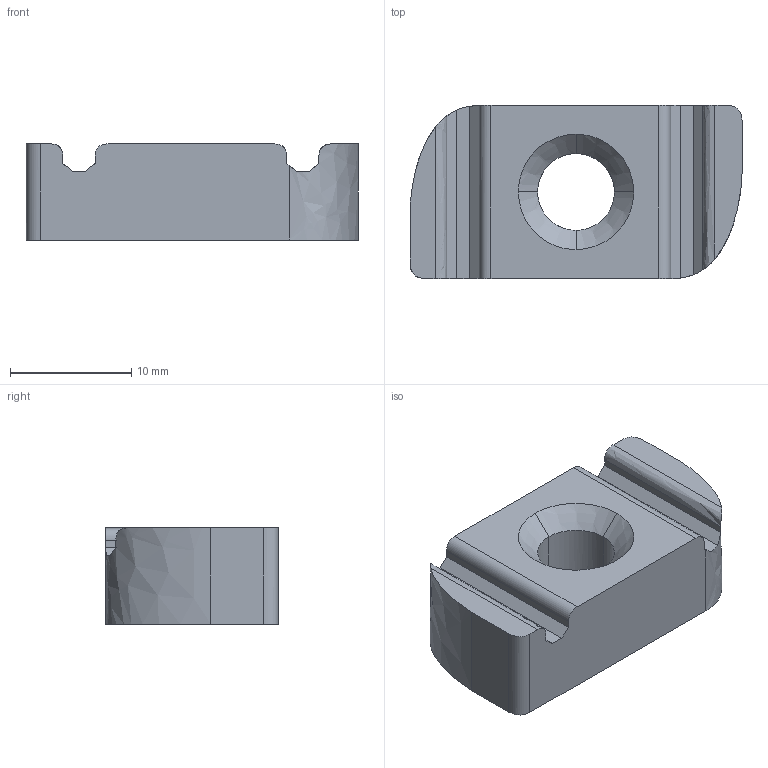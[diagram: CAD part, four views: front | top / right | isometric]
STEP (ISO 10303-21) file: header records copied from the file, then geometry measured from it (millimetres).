
FILE_DESCRIPTION(('TurboCAD Mac Pro'),'Build 980');
FILE_NAME('A3006-1420.stp',' ',(''),(''),'ACIS Interop','IMSI','TurboCAD Mac Pro BY IMSI, INCORPORATED');
FILE_SCHEMA(('automotive_design'));
Length unit declared in the file: inch
Products named in the file (1): 1
Bounding box: 27.43 x 14.29 x 7.93 mm (x, y, z)
Volume: 2494.9 mm3; surface area: 1486.1 mm2
Topology: 1 solids, 1 shells, 34 faces, 92 edges, 60 vertices
Faces by surface type: plane 18, bspline 16
Entity records: 1830 total; most frequent: CARTESIAN_POINT 801, ORIENTED_EDGE 184, EDGE_CURVE 92, DIRECTION 90, VERTEX_POINT 60, LINE 52, VECTOR 52, B_SPLINE_CURVE_WITH_KNOTS 40
